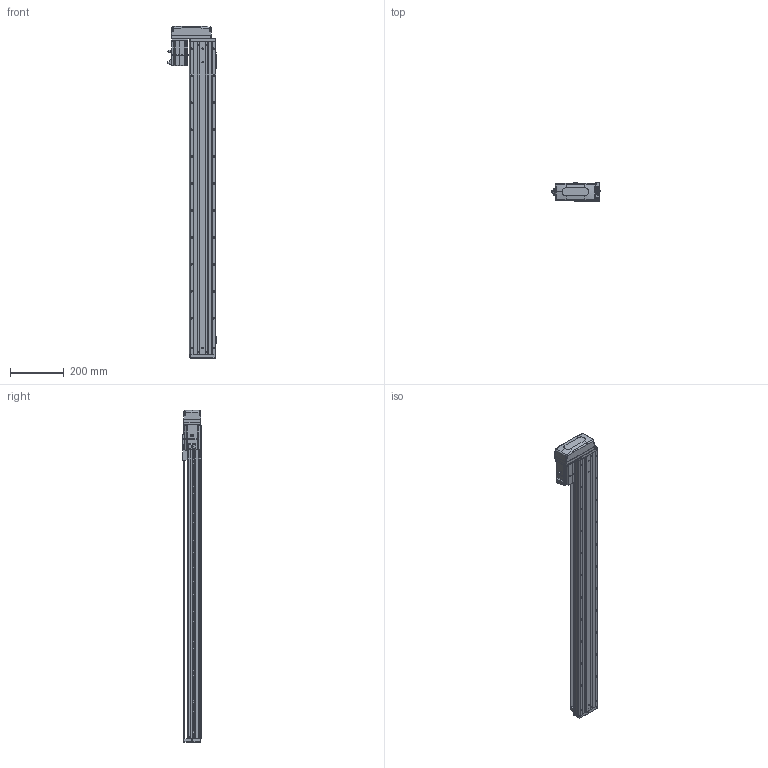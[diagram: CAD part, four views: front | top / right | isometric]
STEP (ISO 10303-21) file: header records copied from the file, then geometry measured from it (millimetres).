
FILE_DESCRIPTION (( 'STEP AP203' ), '1' );
FILE_NAME ('KTHA100-1000-BR-M20-C4L.step', '2022-04-26T01:58:19', ( '微软用户' ), ( '微软中国' ), 'SwSTEP 2.0', 'SolidWorks 2020', '' );
FILE_SCHEMA (( 'CONFIG_CONTROL_DESIGN' ));
Length unit declared in the file: millimetre
Products named in the file (17): CTHA86-015-1_CTHA86-015-2; KTHA100-002; GBT77-2000 M3×3; CTHA86-033; KTHA100-004; GBT 70.1-M3℅6; KTHA100-1000-BR-M20-C4L; KTHA100-005; GBT70.1 M5℅16; GB¨uT 70.2-M3¡Á5_M3¡Á6; CTHA60-016; EE_SX911P_R; GBT 70.3-M3℅6; CTHA60-017; _X2_4E0983F1_X0_200W_1; KTHA100-001_1160; CTHA60-021
Assembly tree (57 placements, depth 2):
  KTHA100-1000-BR-M20-C4L
    KTHA100-001_1160
    KTHA100-002
    KTHA100-004
    KTHA100-005
    GB¨uT 70.2-M3¡Á5_M3¡Á6  x6
    EE_SX911P_R  x3
    CTHA60-017  x3
    CTHA60-021  x2
    GBT77-2000 M3×3  x6
    GBT 70.1-M3℅6  x10
    GBT70.1 M5℅16  x14
    CTHA60-016  x2
    GBT 70.3-M3℅6  x4
    _X2_4E0983F1_X0_200W_1
    CTHA86-015-1_CTHA86-015-2
    CTHA86-033
Bounding box: 178.52 x 68 x 1231 mm (x, y, z)
Volume: 5118489.5 mm3; surface area: 827181.7 mm2
Topology: 60 solids, 60 shells, 2517 faces, 6057 edges, 3760 vertices
Faces by surface type: plane 1292, cylinder 701, cone 317, torus 116, bspline 75, sphere 16
Entity records: 44532 total; most frequent: CARTESIAN_POINT 8896, DIRECTION 6932, ORIENTED_EDGE 6726, EDGE_CURVE 3363, AXIS2_PLACEMENT_3D 2404, LINE 2124, VECTOR 2124, VERTEX_POINT 2120
